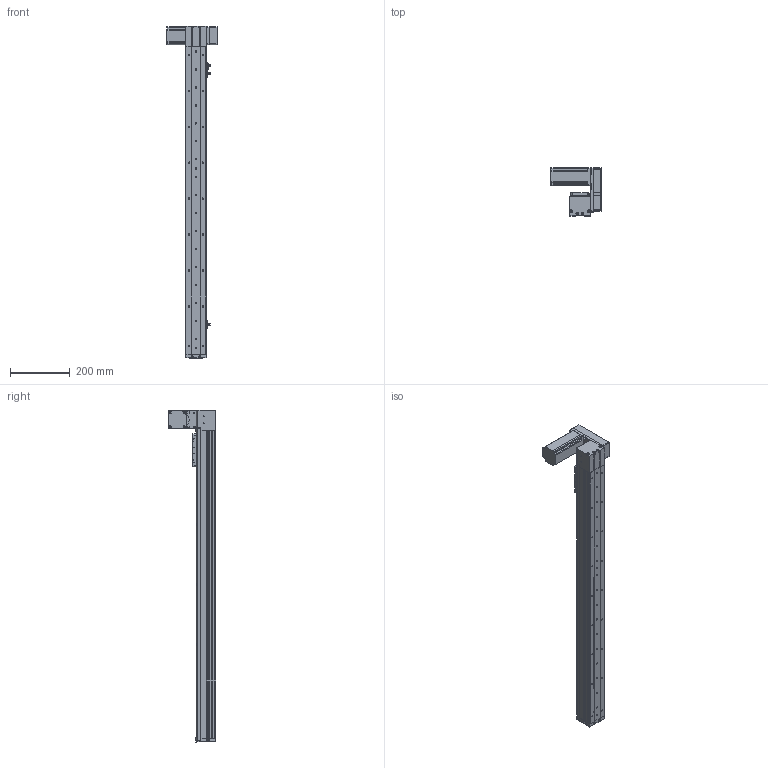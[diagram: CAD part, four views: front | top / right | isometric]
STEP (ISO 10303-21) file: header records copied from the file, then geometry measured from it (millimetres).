
FILE_DESCRIPTION (( 'STEP AP214' ), '1' );
FILE_NAME ('KSD68BS-S850-MLU-CR.STEP', '2019-11-07T07:40:28', ( '微软用户' ), ( '微软中国' ), 'SwSTEP 2.0', 'SolidWorks 2014', '' );
FILE_SCHEMA (( 'AUTOMOTIVE_DESIGN' ));
Length unit declared in the file: millimetre
Products named in the file (14): 68宽单导轨全封闭丝杆传动安装板1防护罩; KSD68BS 850行程侧板全封闭; 68宽单导轨全封闭同步带端板; 68单导轨全封闭同步带电机座左; 68单导轨全封闭同步带安装板; KSD68BS 850行程盖板全封闭; 悵誘欶奻狟殏; 68宽马达安装板连板上折同步带; 感应片68宽全封闭; U倰嫖萇EEㄜSX672; 台达ECMA－C20604AS伺服电机（400W); KSD68BS 850行程底板全封闭; KSD68BS-S850-MLU-CR; 68遵裔啣揤啣1
Assembly tree (17 placements, depth 2):
  KSD68BS-S850-MLU-CR
    KSD68BS 850行程底板全封闭
    台达ECMA－C20604AS伺服电机（400W)
    U倰嫖萇EEㄜSX672  x3
    感应片68宽全封闭
    68宽马达安装板连板上折同步带
    悵誘欶奻狟殏
    68单导轨全封闭同步带安装板
    68单导轨全封闭同步带电机座左
    68宽单导轨全封闭同步带端板
    KSD68BS 850行程侧板全封闭  x2
    68宽单导轨全封闭丝杆传动安装板1防护罩
    68遵裔啣揤啣1  x2
    KSD68BS 850行程盖板全封闭
Bounding box: 167.2 x 159.5 x 1108.1 mm (x, y, z)
Volume: 2334412 mm3; surface area: 876563.2 mm2
Topology: 18 solids, 18 shells, 1473 faces, 4183 edges, 2680 vertices
Faces by surface type: cylinder 692, plane 625, cone 156
Entity records: 46643 total; most frequent: CARTESIAN_POINT 7985, DIRECTION 7000, ORIENTED_EDGE 6702, EDGE_CURVE 3351, AXIS2_PLACEMENT_3D 2519, VERTEX_POINT 2198, VECTOR 1962, LINE 1962
